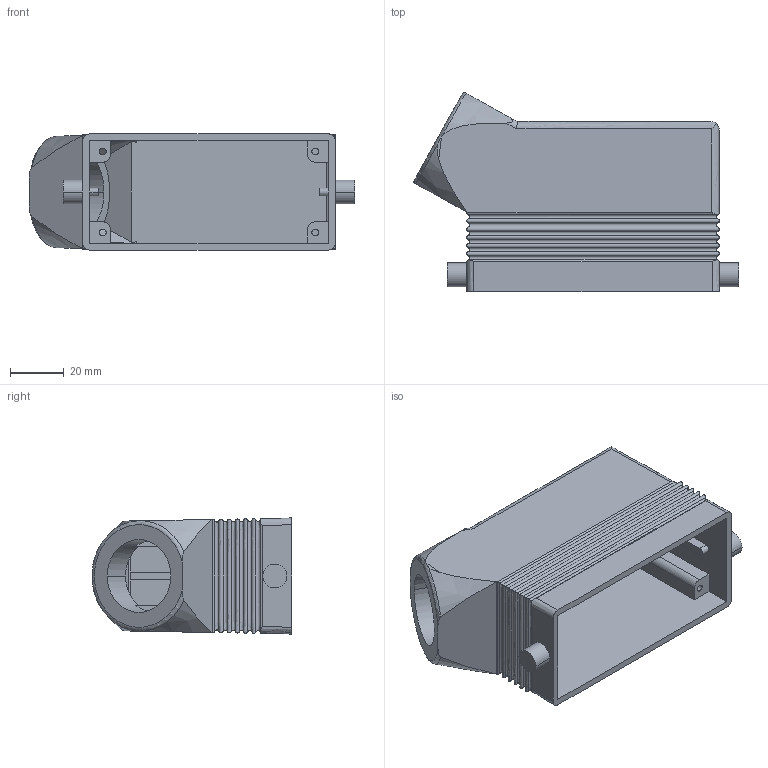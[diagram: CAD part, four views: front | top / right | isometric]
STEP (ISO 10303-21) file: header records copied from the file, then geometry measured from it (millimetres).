
FILE_DESCRIPTION (( 'STEP AP214' ), '1' );
FILE_NAME ('CHO-16L.STEP', '2006-07-05T20:05:30', ( 'Mencom User' ), ( 'Mencom Corporation' ), 'SwSTEP 2.0', 'SolidWorks 2006104', '' );
FILE_SCHEMA (( 'AUTOMOTIVE_DESIGN' ));
Length unit declared in the file: inch
Products named in the file (1): CHO-16L
Bounding box: 120.6 x 73.83 x 43 mm (x, y, z)
Volume: 60429.6 mm3; surface area: 48386.2 mm2
Topology: 1 solids, 1 shells, 162 faces, 426 edges, 268 vertices
Faces by surface type: plane 64, cylinder 55, bspline 34, cone 8, torus 1
Entity records: 6571 total; most frequent: CARTESIAN_POINT 2934, ORIENTED_EDGE 852, DIRECTION 602, EDGE_CURVE 426, VERTEX_POINT 268, LINE 214, VECTOR 214, AXIS2_PLACEMENT_3D 194
